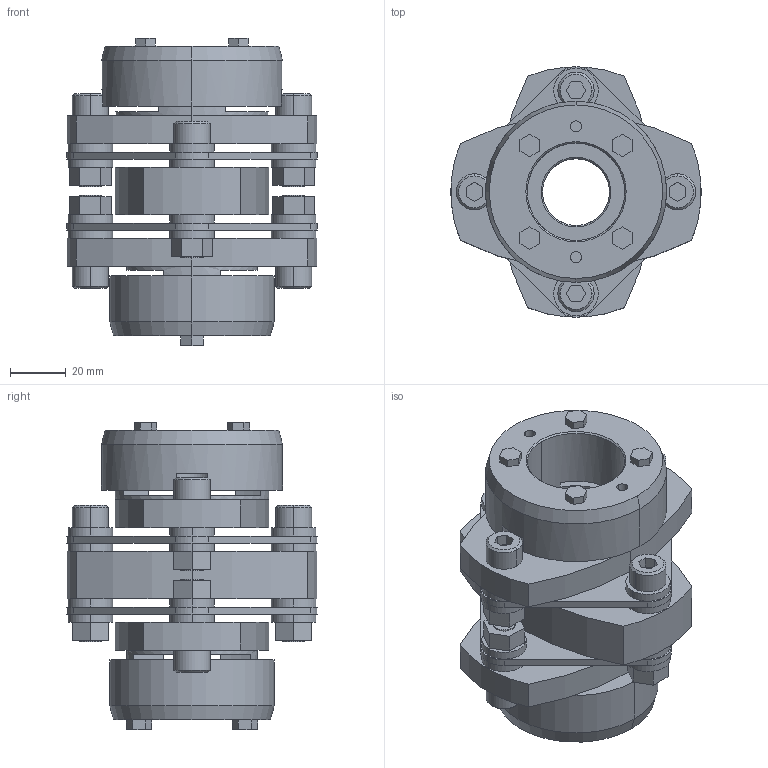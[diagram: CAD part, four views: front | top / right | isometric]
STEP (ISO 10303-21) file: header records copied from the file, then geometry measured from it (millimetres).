
FILE_DESCRIPTION((''),'2;1');
FILE_NAME('LCD-90T7-24×35.stp','2015-11-01T19:30:57',(''),(''),'AutoCAD STEP 2000i','AutoCAD 2000i',', , ');
FILE_SCHEMA(('CONFIG_CONTROL_DESIGN'));
Length unit declared in the file: millimetre
Products named in the file (10): LCD-90T7-25×35; 忣兜1; LC90T7-T035; LC90T7-T032; LC90T7-T030; LC90T7-T025-1; LC90T7-T025; LC90T7-T019-1; LC90T7-T019; LCD90-ITA
Assembly tree (9 placements, depth 2):
  LCD-90T7-25×35
    忣兜1
    LC90T7-T035
    LC90T7-T032
    LC90T7-T030
    LC90T7-T025-1
    LC90T7-T025
    LC90T7-T019-1
    LC90T7-T019
    LCD90-ITA
Bounding box: 90 x 89.94 x 110.3 mm (x, y, z)
Volume: 265476.8 mm3; surface area: 73939.1 mm2
Topology: 1 solids, 1 shells, 325 faces, 792 edges, 518 vertices
Faces by surface type: plane 179, cylinder 122, cone 24
Entity records: 9847 total; most frequent: DIRECTION 1750, CARTESIAN_POINT 1645, ORIENTED_EDGE 1584, EDGE_CURVE 792, AXIS2_PLACEMENT_3D 623, VERTEX_POINT 518, VECTOR 504, LINE 504
